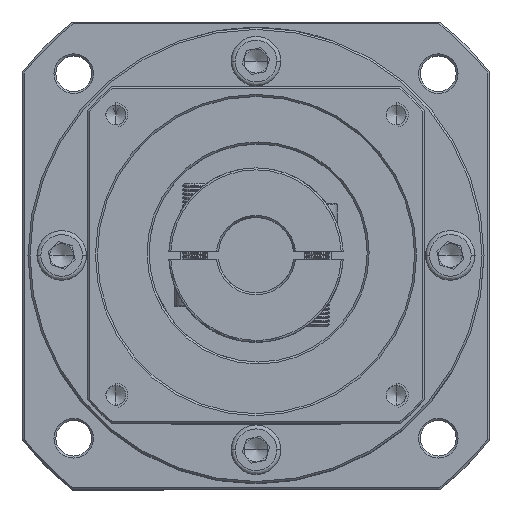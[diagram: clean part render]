
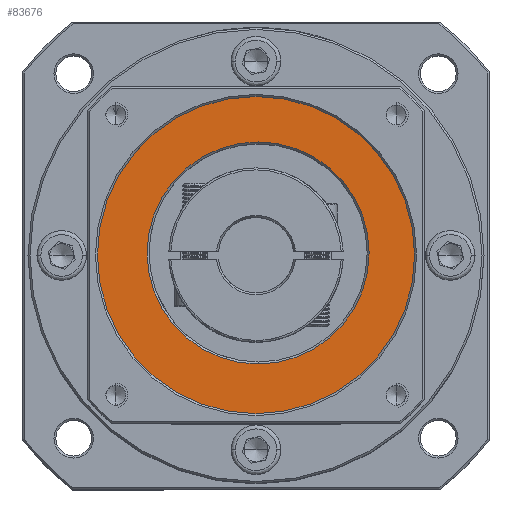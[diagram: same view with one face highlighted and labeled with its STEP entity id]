
A CAD part, top view. The second image highlights one B-rep face of the part: STEP entity #83676.
In plain terms, the highlighted planar face has unit normal (0, 0, 1).
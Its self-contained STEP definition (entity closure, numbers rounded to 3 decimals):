
#3402 = CARTESIAN_POINT ( 'NONE',  ( 29.266, 151.211, 9.23 ) ) ;
#3883 = ORIENTED_EDGE ( 'NONE', *, *, #94731, .T. ) ;
#6171 = AXIS2_PLACEMENT_3D ( 'NONE', #50225, #130675, #50661 ) ;
#17153 = PLANE ( 'NONE',  #55862 ) ;
#19459 = CIRCLE ( 'NONE', #114375, 28. ) ;
#34379 = AXIS2_PLACEMENT_3D ( 'NONE', #47937, #36481, #107222 ) ;
#36481 = DIRECTION ( 'NONE',  ( 0., 0., 1. ) ) ;
#37387 = DIRECTION ( 'NONE',  ( 0., 0., 1. ) ) ;
#45423 = EDGE_LOOP ( 'NONE', ( #3883, #92582 ) ) ;
#47937 = CARTESIAN_POINT ( 'NONE',  ( 29.266, 111.211, 9.23 ) ) ;
#48291 = DIRECTION ( 'NONE',  ( 0., 0., -1. ) ) ;
#49695 = CIRCLE ( 'NONE', #6171, 40. ) ;
#50225 = CARTESIAN_POINT ( 'NONE',  ( 29.266, 111.211, 9.23 ) ) ;
#50661 = DIRECTION ( 'NONE',  ( 0., -1., 0. ) ) ;
#53932 = VERTEX_POINT ( 'NONE', #3402 ) ;
#55862 = AXIS2_PLACEMENT_3D ( 'NONE', #78472, #37387, #108165 ) ;
#57015 = CARTESIAN_POINT ( 'NONE',  ( 29.266, 71.211, 9.23 ) ) ;
#68203 = DIRECTION ( 'NONE',  ( 0., -1., 0. ) ) ;
#69057 = CARTESIAN_POINT ( 'NONE',  ( 29.8, 111.753, 9.23 ) ) ;
#70465 = VERTEX_POINT ( 'NONE', #57015 ) ;
#72225 = CARTESIAN_POINT ( 'NONE',  ( 29.8, 83.753, 9.23 ) ) ;
#77903 = CIRCLE ( 'NONE', #34379, 40. ) ;
#78472 = CARTESIAN_POINT ( 'NONE',  ( 29.266, 111.211, 9.23 ) ) ;
#78778 = DIRECTION ( 'NONE',  ( 0., -1., 0. ) ) ;
#80362 = VERTEX_POINT ( 'NONE', #72225 ) ;
#81307 = EDGE_CURVE ( 'NONE', #70465, #53932, #77903, .T. ) ;
#82102 = VERTEX_POINT ( 'NONE', #96324 ) ;
#83676 = ADVANCED_FACE ( 'NONE', ( #122889, #89563 ), #17153, .T. ) ;
#87712 = DIRECTION ( 'NONE',  ( 0., 0., -1. ) ) ;
#89110 = ORIENTED_EDGE ( 'NONE', *, *, #95675, .T. ) ;
#89563 = FACE_BOUND ( 'NONE', #45423, .T. ) ;
#92582 = ORIENTED_EDGE ( 'NONE', *, *, #125575, .T. ) ;
#93269 = CIRCLE ( 'NONE', #104383, 28. ) ;
#94731 = EDGE_CURVE ( 'NONE', #80362, #82102, #19459, .T. ) ;
#95675 = EDGE_CURVE ( 'NONE', #53932, #70465, #49695, .T. ) ;
#96324 = CARTESIAN_POINT ( 'NONE',  ( 29.8, 139.753, 9.23 ) ) ;
#104383 = AXIS2_PLACEMENT_3D ( 'NONE', #118618, #48291, #78778 ) ;
#107222 = DIRECTION ( 'NONE',  ( 0., -1., 0. ) ) ;
#108165 = DIRECTION ( 'NONE',  ( 0., -1., 0. ) ) ;
#114375 = AXIS2_PLACEMENT_3D ( 'NONE', #69057, #87712, #68203 ) ;
#118618 = CARTESIAN_POINT ( 'NONE',  ( 29.8, 111.753, 9.23 ) ) ;
#122819 = ORIENTED_EDGE ( 'NONE', *, *, #81307, .T. ) ;
#122889 = FACE_OUTER_BOUND ( 'NONE', #127086, .T. ) ;
#125575 = EDGE_CURVE ( 'NONE', #82102, #80362, #93269, .T. ) ;
#127086 = EDGE_LOOP ( 'NONE', ( #122819, #89110 ) ) ;
#130675 = DIRECTION ( 'NONE',  ( 0., 0., 1. ) ) ;
